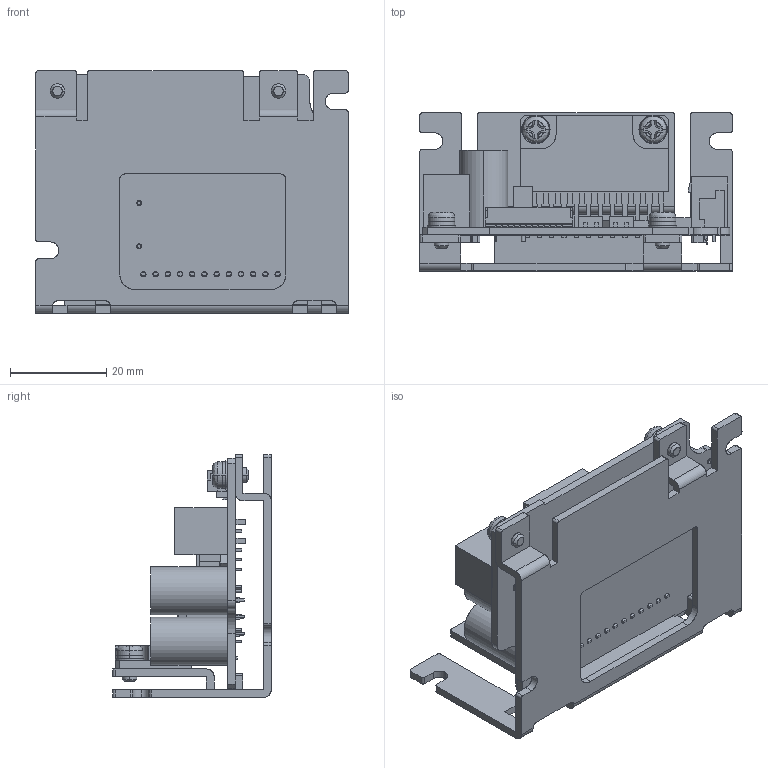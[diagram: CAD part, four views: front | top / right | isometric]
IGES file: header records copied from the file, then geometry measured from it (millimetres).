
Start section: SolidWorks IGES file using analytic representation for surfaces
Bounding box: 65 x 33 x 50.5 mm (x, y, z)
Surface area: 24633.1 mm2 (no closed solid volume)
Topology: 0 solids, 0 shells, 1157 faces, 13389 edges, 16472 vertices
Faces by surface type: bspline 925, revolution 232
